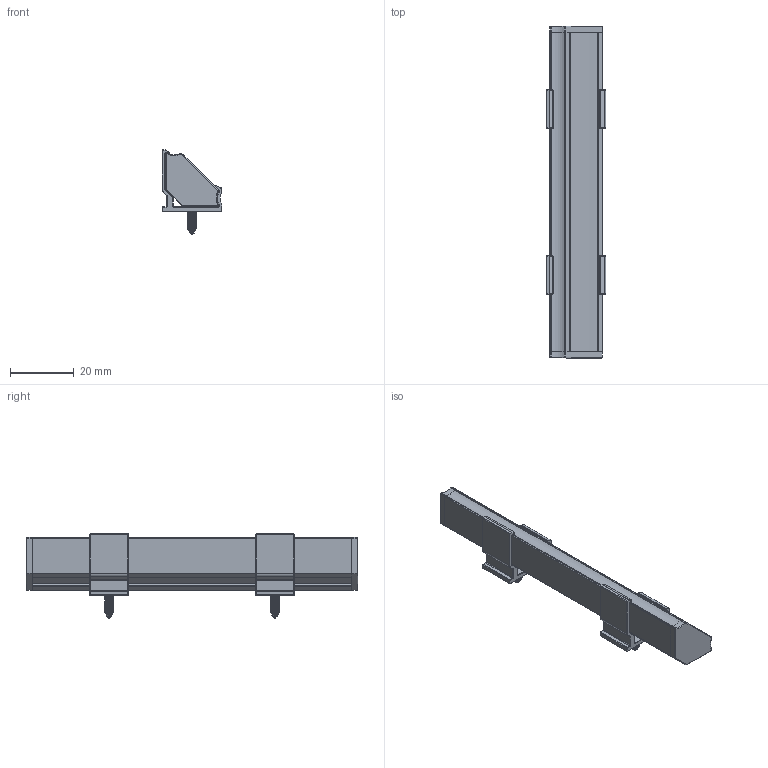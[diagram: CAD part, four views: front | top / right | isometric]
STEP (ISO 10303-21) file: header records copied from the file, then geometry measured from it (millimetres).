
FILE_DESCRIPTION(/* description */ (''),/* implementation_level */ '2;1');
FILE_NAME(/* name */ 'c:\worker\convert-fusion-r02\tmp\job-1\312\output\files\2238704b-054c-45a1-8fbb-e152b5de7543\c5585888-142e-470b-a959-ea93be6769a0.stp',/* time_stamp */ '2022-03-30T12:51:21+00:00',/* author */ (''),/* organization */ (''),/* preprocessor_version */ 'ST-DEVELOPER v18.1',/* originating_system */ 'Autodesk Translation Framework v10.14.0.1471',/* authorisation */ '');
FILE_SCHEMA (('AUTOMOTIVE_DESIGN { 1 0 10303 214 3 1 1 }'));
Length unit declared in the file: millimetre
Products named in the file (8): CHAN-113113; M3x6mm; LED Strip Light; Light Diffuser / Lens; Aluminium Profile; Mounting Bracket; End Cap; End Cap w/ Cable Out
Assembly tree (10 placements, depth 2):
  CHAN-113113
    M3x6mm  x2
    LED Strip Light  x2
    Mounting Bracket  x2
    Light Diffuser / Lens
    Aluminium Profile
    End Cap
    End Cap w/ Cable Out
Bounding box: 18.8 x 104.04 x 26.36 mm (x, y, z)
Volume: 11003 mm3; surface area: 21749.1 mm2
Topology: 86 solids, 86 shells, 1346 faces, 3070 edges, 1894 vertices
Faces by surface type: plane 532, cylinder 492, torus 114, bspline 106, sphere 88, cone 14
Full cylindrical faces by diameter (mm): 2.356 x8, 2.927 x14, 3 x2
Entity records: 26667 total; most frequent: CARTESIAN_POINT 7036, DIRECTION 4249, ORIENTED_EDGE 3886, EDGE_CURVE 1943, AXIS2_PLACEMENT_3D 1607, VERTEX_POINT 1199, LINE 1035, VECTOR 1035
